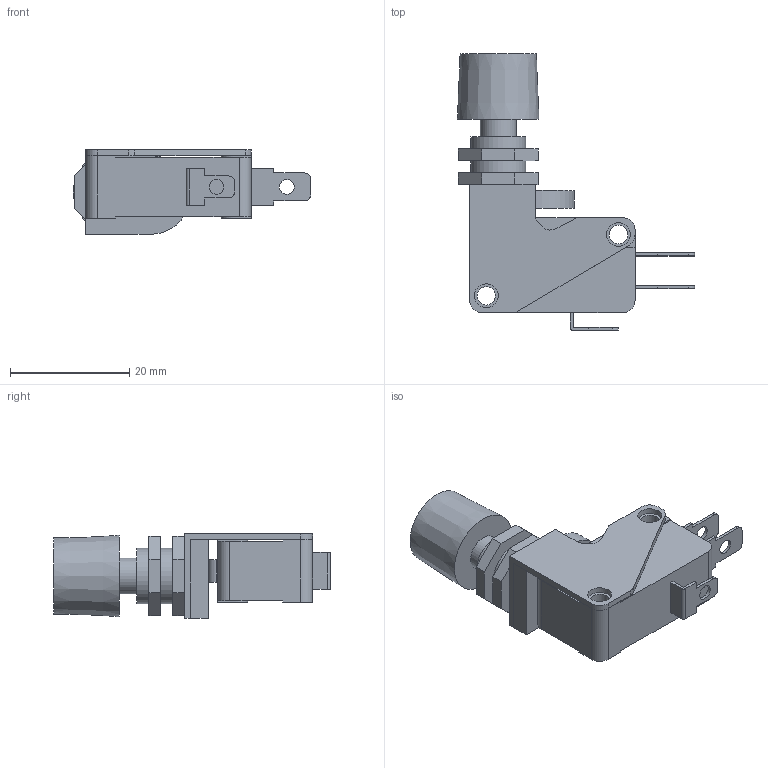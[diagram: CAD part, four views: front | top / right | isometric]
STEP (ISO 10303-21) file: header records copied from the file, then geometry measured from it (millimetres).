
FILE_DESCRIPTION(/* description */ (''),/* implementation_level */ '2;1');
FILE_NAME(/* name */ 'E:\Inventor 2016\제품 외형도\(완료) 리미트 스위치\소형 마이크로 스위치 (V형)\YS P9S-15C.stp',/* time_stamp */ '2019-04-09T10:04:11+09:00',/* author */ ('Kim'),/* organization */ (''),/* preprocessor_version */ 'ST-DEVELOPER v16.1',/* originating_system */ 'Autodesk Inventor 2016',/* authorisation */ '');
FILE_SCHEMA (('AUTOMOTIVE_DESIGN { 1 0 10303 214 3 1 1 }'));
Length unit declared in the file: millimetre
Products named in the file (1): YS P9S-15C
Bounding box: 39.85 x 46.5 x 14.2 mm (x, y, z)
Volume: 7908.7 mm3; surface area: 5384.7 mm2
Topology: 4 solids, 4 shells, 138 faces, 356 edges, 236 vertices
Faces by surface type: plane 105, cylinder 32, cone 1
Full cylindrical faces by diameter (mm): 2.5 x3, 3.1 x2, 4 x2, 6 x1, 9.3 x2
Entity records: 4291 total; most frequent: CARTESIAN_POINT 720, ORIENTED_EDGE 690, DIRECTION 689, EDGE_CURVE 345, LINE 279, VECTOR 279, VERTEX_POINT 236, AXIS2_PLACEMENT_3D 205
